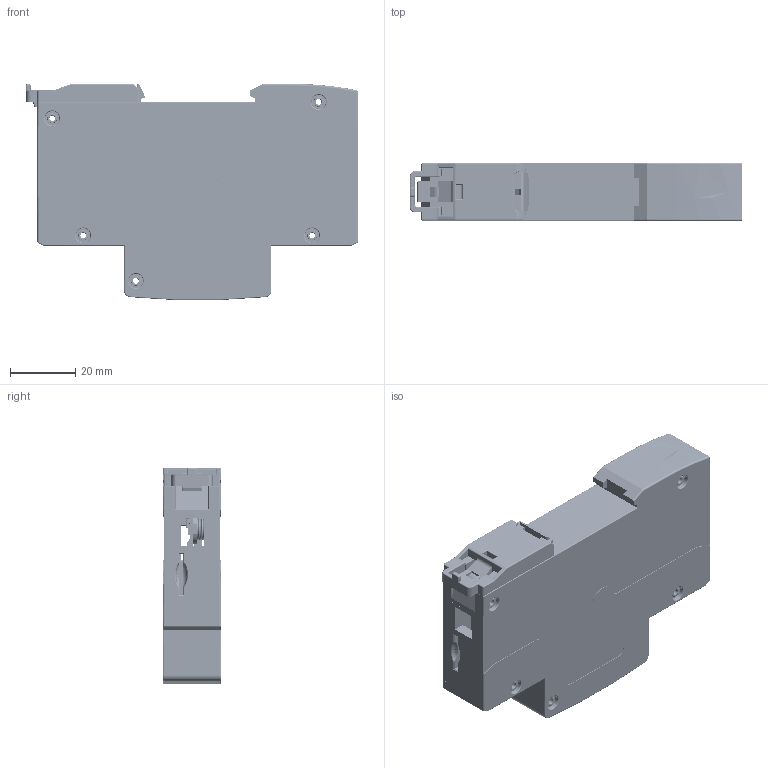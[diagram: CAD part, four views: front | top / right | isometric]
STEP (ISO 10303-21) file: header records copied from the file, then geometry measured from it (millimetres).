
FILE_DESCRIPTION((''),'2;1');
FILE_NAME('6592FT1605_ASM','2023-10-26T17:14:52',('dycaotr'),(''),'CREO PARAMETRIC BY PTC INC, 2020044','CREO PARAMETRIC BY PTC INC, 2020044','');
FILE_SCHEMA(('CONFIG_CONTROL_DESIGN','SHAPE_APPEARANCE_LAYERS_GROUPS'));
Products named in the file (213): 8022FT1605; 8050FT1601; 8050FT1602; 5860FT1609; 8ZTD-108-066; 8ZTD-271-376; 5ZTD-271-367_ASM; 8ZT967006; 8315FT1605; OPEN_CASCADE_STEP_TRANSLATOR_6_; BOARD_1_ASM; SOD-323_1_2_1; SOD-323_1_2_2; SOD-323_1_2_3; SOD-323_1_2_4; SOD-323_1_2_ASM; D1_ASM; SOT-23-3_1_2_1; SOT-23-3_1_2_2; SOT-23-3_1_2_3; SOT-23-3_1_2_4; SOT-23-3_1_2_ASM; Q2_ASM; XKSIM-002-P7_RGB12040119; J5_ASM; R0402_1_2_1; R0402_1_2_2; R0402_1_2_ASM; R77_ASM; R0402_1; R0402_2; R0402_ASM; R76_ASM; R0603_1_2_1; R0603_1_2_2; R0603_1_2_ASM; R75_ASM; R74_ASM; R73_ASM; R0603_1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
Assembly tree (302 placements, depth 8):
  6592FT1605_ASM
    8022FT1605
    8050FT1601
    8050FT1602
    5860FT1609
    5ZTD-271-367_ASM
      8ZTD-108-066
      8ZTD-271-376
    8ZT967006  x5
    8315FT1605
    5599FT1624_ASM
      8599FT1619_ASM
        PCB_1_ASM
          BOARD_1_ASM
            OPEN_CASCADE_STEP_TRANSLATOR_6_
          D1_ASM
            SOD-323_1_2_ASM
              SOD-323_1_2_1
              SOD-323_1_2_2
              SOD-323_1_2_3
              SOD-323_1_2_4
          Q2_ASM
            SOT-23-3_1_2_ASM
              SOT-23-3_1_2_1
              SOT-23-3_1_2_2
              SOT-23-3_1_2_3
              SOT-23-3_1_2_4
          J5_ASM
            XKSIM-002-P7_RGB12040119
          R77_ASM
            R0402_1_2_ASM
              R0402_1_2_1
              R0402_1_2_2
          R76_ASM
            R0402_ASM
              R0402_1
              R0402_2
          R75_ASM
            R0603_1_2_ASM
              R0603_1_2_1
              R0603_1_2_2
          R74_ASM
            R0402_ASM
              R0402_1
              R0402_2
          R73_ASM
            R0402_ASM
              R0402_1
              R0402_2
          R72_ASM
            R0603_ASM
              R0603_1
              R0603_2
          R71_ASM
            R0402_ASM
              R0402_1
              R0402_2
          R70_ASM
            R0402_ASM
              R0402_1
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Bounding box: 101.5 x 17.8 x 66.09 mm (x, y, z)
Volume: 32197.5 mm3; surface area: 57047.9 mm2
Topology: 255 solids, 255 shells, 15135 faces, 40663 edges, 26519 vertices
Faces by surface type: plane 9143, extrusion 3362, cylinder 1981, sphere 307, torus 245, cone 72, bspline 23, revolution 2
Entity records: 382173 total; most frequent: CARTESIAN_POINT 87489, ORIENTED_EDGE 46640, DIRECTION 41201, EDGE_CURVE 23320, PRESENTATION_STYLE_ASSIGNMENT 22093, STYLED_ITEM 19915, CURVE_STYLE 19830, VECTOR 19093
